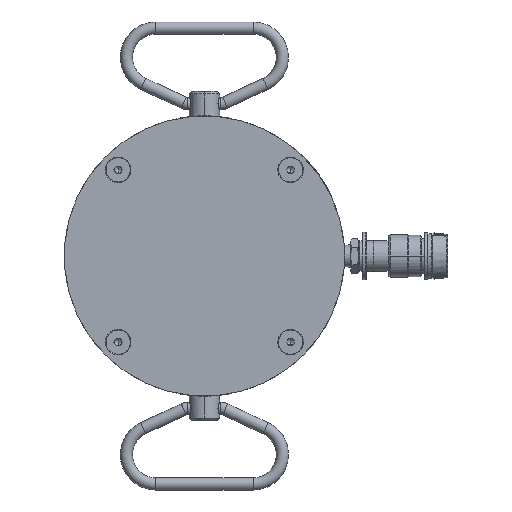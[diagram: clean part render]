
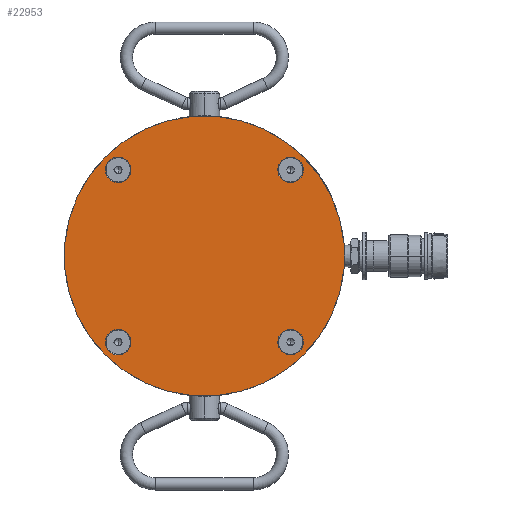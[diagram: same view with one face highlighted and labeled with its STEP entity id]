
A CAD part, front view. The second image highlights one B-rep face of the part: STEP entity #22953.
In plain terms, the highlighted planar face has unit normal (0, -1, 0).
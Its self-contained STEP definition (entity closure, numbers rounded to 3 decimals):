
#5041=CARTESIAN_POINT('',(0.,-6.2,0.));
#5042=DIRECTION('',(0.,-1.,0.));
#5043=DIRECTION('',(-0.707,0.,0.707));
#5044=AXIS2_PLACEMENT_3D('',#5041,#5042,#5043);
#5046=CARTESIAN_POINT('',(0.,-6.2,0.));
#5047=DIRECTION('',(0.,-1.,0.));
#5048=DIRECTION('',(0.707,0.,-0.707));
#5049=AXIS2_PLACEMENT_3D('',#5046,#5047,#5048);
#5051=CARTESIAN_POINT('',(-70.711,-6.2,-70.711));
#5052=DIRECTION('',(0.,-1.,0.));
#5053=DIRECTION('',(0.707,0.,-0.707));
#5054=AXIS2_PLACEMENT_3D('',#5051,#5052,#5053);
#5056=CARTESIAN_POINT('',(-70.711,-6.2,-70.711));
#5057=DIRECTION('',(0.,-1.,0.));
#5058=DIRECTION('',(-0.707,0.,0.707));
#5059=AXIS2_PLACEMENT_3D('',#5056,#5057,#5058);
#5061=CARTESIAN_POINT('',(70.711,-6.2,-70.711));
#5062=DIRECTION('',(0.,-1.,0.));
#5063=DIRECTION('',(0.707,0.,0.707));
#5064=AXIS2_PLACEMENT_3D('',#5061,#5062,#5063);
#5066=CARTESIAN_POINT('',(70.711,-6.2,-70.711));
#5067=DIRECTION('',(0.,-1.,0.));
#5068=DIRECTION('',(-0.707,0.,-0.707));
#5069=AXIS2_PLACEMENT_3D('',#5066,#5067,#5068);
#5071=CARTESIAN_POINT('',(70.711,-6.2,70.711));
#5072=DIRECTION('',(0.,-1.,0.));
#5073=DIRECTION('',(-0.707,0.,0.707));
#5074=AXIS2_PLACEMENT_3D('',#5071,#5072,#5073);
#5076=CARTESIAN_POINT('',(70.711,-6.2,70.711));
#5077=DIRECTION('',(0.,-1.,0.));
#5078=DIRECTION('',(0.707,0.,-0.707));
#5079=AXIS2_PLACEMENT_3D('',#5076,#5077,#5078);
#5081=CARTESIAN_POINT('',(-70.711,-6.2,70.711));
#5082=DIRECTION('',(0.,-1.,0.));
#5083=DIRECTION('',(-0.707,0.,-0.707));
#5084=AXIS2_PLACEMENT_3D('',#5081,#5082,#5083);
#5086=CARTESIAN_POINT('',(-70.711,-6.2,70.711));
#5087=DIRECTION('',(0.,-1.,0.));
#5088=DIRECTION('',(0.707,0.,0.707));
#5089=AXIS2_PLACEMENT_3D('',#5086,#5087,#5088);
#17638=CARTESIAN_POINT('',(-81.317,-6.2,81.317));
#17639=CARTESIAN_POINT('',(81.317,-6.2,-81.317));
#17640=VERTEX_POINT('',#17638);
#17641=VERTEX_POINT('',#17639);
#17642=CARTESIAN_POINT('',(-63.286,-6.2,-78.135));
#17643=CARTESIAN_POINT('',(-78.135,-6.2,-63.286));
#17644=VERTEX_POINT('',#17642);
#17645=VERTEX_POINT('',#17643);
#17646=CARTESIAN_POINT('',(78.135,-6.2,-63.286));
#17647=CARTESIAN_POINT('',(63.286,-6.2,-78.135));
#17648=VERTEX_POINT('',#17646);
#17649=VERTEX_POINT('',#17647);
#17650=CARTESIAN_POINT('',(63.286,-6.2,78.135));
#17651=CARTESIAN_POINT('',(78.135,-6.2,63.286));
#17652=VERTEX_POINT('',#17650);
#17653=VERTEX_POINT('',#17651);
#17654=CARTESIAN_POINT('',(-78.135,-6.2,63.286));
#17655=CARTESIAN_POINT('',(-63.286,-6.2,78.135));
#17656=VERTEX_POINT('',#17654);
#17657=VERTEX_POINT('',#17655);
#22920=CARTESIAN_POINT('',(0.,-6.2,0.));
#22921=DIRECTION('',(0.,-1.,0.));
#22922=DIRECTION('',(-0.707,0.,0.707));
#22923=AXIS2_PLACEMENT_3D('',#22920,#22921,#22922);
#22924=PLANE('',#22923);
#22925=ORIENTED_EDGE('',*,*,#22900,.F.);
#22926=ORIENTED_EDGE('',*,*,#22914,.F.);
#22927=EDGE_LOOP('',(#22925,#22926));
#22928=FACE_OUTER_BOUND('',#22927,.F.);
#22930=ORIENTED_EDGE('',*,*,#22929,.T.);
#22932=ORIENTED_EDGE('',*,*,#22931,.T.);
#22933=EDGE_LOOP('',(#22930,#22932));
#22934=FACE_BOUND('',#22933,.F.);
#22936=ORIENTED_EDGE('',*,*,#22935,.T.);
#22938=ORIENTED_EDGE('',*,*,#22937,.T.);
#22939=EDGE_LOOP('',(#22936,#22938));
#22940=FACE_BOUND('',#22939,.F.);
#22942=ORIENTED_EDGE('',*,*,#22941,.T.);
#22944=ORIENTED_EDGE('',*,*,#22943,.T.);
#22945=EDGE_LOOP('',(#22942,#22944));
#22946=FACE_BOUND('',#22945,.F.);
#22948=ORIENTED_EDGE('',*,*,#22947,.T.);
#22950=ORIENTED_EDGE('',*,*,#22949,.T.);
#22951=EDGE_LOOP('',(#22948,#22950));
#22952=FACE_BOUND('',#22951,.F.);
#22953=ADVANCED_FACE('',(#22928,#22934,#22940,#22946,#22952),#22924,.T.);
#5045=CIRCLE('',#5044,115.);
#5050=CIRCLE('',#5049,115.);
#5055=CIRCLE('',#5054,10.5);
#5060=CIRCLE('',#5059,10.5);
#5065=CIRCLE('',#5064,10.5);
#5070=CIRCLE('',#5069,10.5);
#5075=CIRCLE('',#5074,10.5);
#5080=CIRCLE('',#5079,10.5);
#5085=CIRCLE('',#5084,10.5);
#5090=CIRCLE('',#5089,10.5);
#22900=EDGE_CURVE('',#17640,#17641,#5045,.T.);
#22914=EDGE_CURVE('',#17641,#17640,#5050,.T.);
#22929=EDGE_CURVE('',#17644,#17645,#5055,.T.);
#22931=EDGE_CURVE('',#17645,#17644,#5060,.T.);
#22935=EDGE_CURVE('',#17648,#17649,#5065,.T.);
#22937=EDGE_CURVE('',#17649,#17648,#5070,.T.);
#22941=EDGE_CURVE('',#17652,#17653,#5075,.T.);
#22943=EDGE_CURVE('',#17653,#17652,#5080,.T.);
#22947=EDGE_CURVE('',#17656,#17657,#5085,.T.);
#22949=EDGE_CURVE('',#17657,#17656,#5090,.T.);
